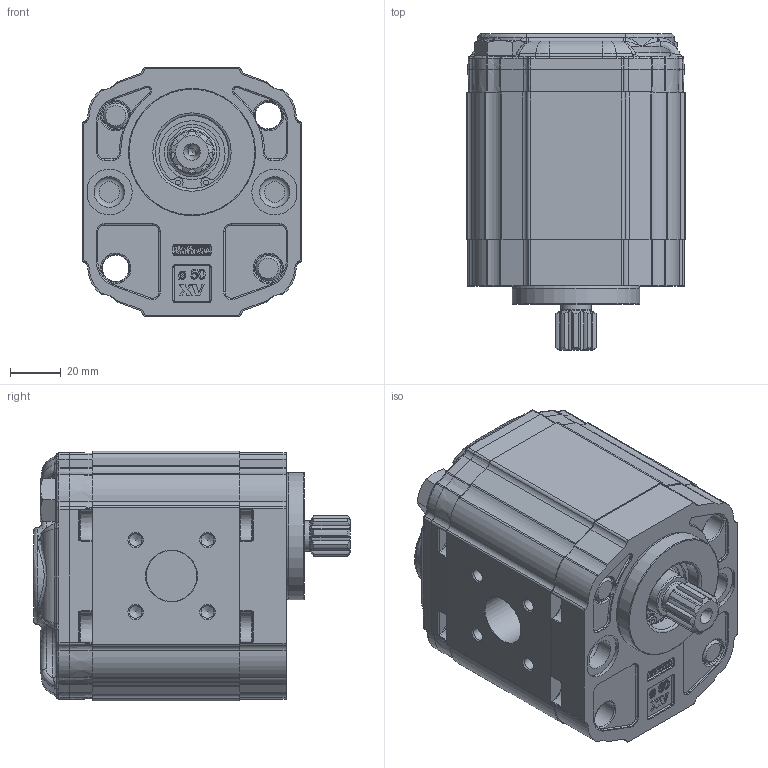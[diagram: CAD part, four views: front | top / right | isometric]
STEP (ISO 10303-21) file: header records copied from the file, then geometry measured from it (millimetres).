
FILE_DESCRIPTION(/* description */ ('Unknown'),/* implementation_level */ '2;1');
FILE_NAME(/* name */ 'X2P4712HSRA',/* time_stamp */ '2021-07-16T12:56:49+02:00',/* author */ ('Unknown'),/* organization */ ('Unknown'),/* preprocessor_version */ 'ST-DEVELOPER v16.7',/* originating_system */ 'Solid Edge',/* authorisation */ 'Unknown');
FILE_SCHEMA (('AUTOMOTIVE_DESIGN {1 0 10303 214 3 1 1}'));
Products named in the file (5): X2P4712HSRA; X2P12; 2H; X2SRH58; XP210-A
Assembly tree (4 placements, depth 2):
  X2P4712HSRA
    X2P12
    2H
    X2SRH58
    XP210-A
Bounding box: 86 x 124.5 x 98 mm (x, y, z)
Volume: 691376.2 mm3; surface area: 102847.4 mm2
Topology: 4 solids, 7 shells, 1904 faces, 4723 edges, 2901 vertices
Faces by surface type: cylinder 609, plane 507, bspline 492, torus 202, cone 82, sphere 12
Full cylindrical faces by diameter (mm): 2 x2, 5 x8, 8.5 x2, 10 x2, 10.5 x8, 11 x4, 12 x3, 15 x1, 16 x2, 17.42 x1, 17.48 x2, 18.724 x1, 20 x1, 20.595 x1, 21.741 x1, 25.834 x1, 28.56 x1, 28.57 x1, 28.8 x1, 30.5 x1, 50 x1
Entity records: 81215 total; most frequent: CARTESIAN_POINT 27237, ORIENTED_EDGE 9062, DIRECTION 7426, EDGE_CURVE 4531, VERTEX_POINT 2850, AXIS2_PLACEMENT_3D 2779, FACE_BOUND 2131, EDGE_LOOP 2121
